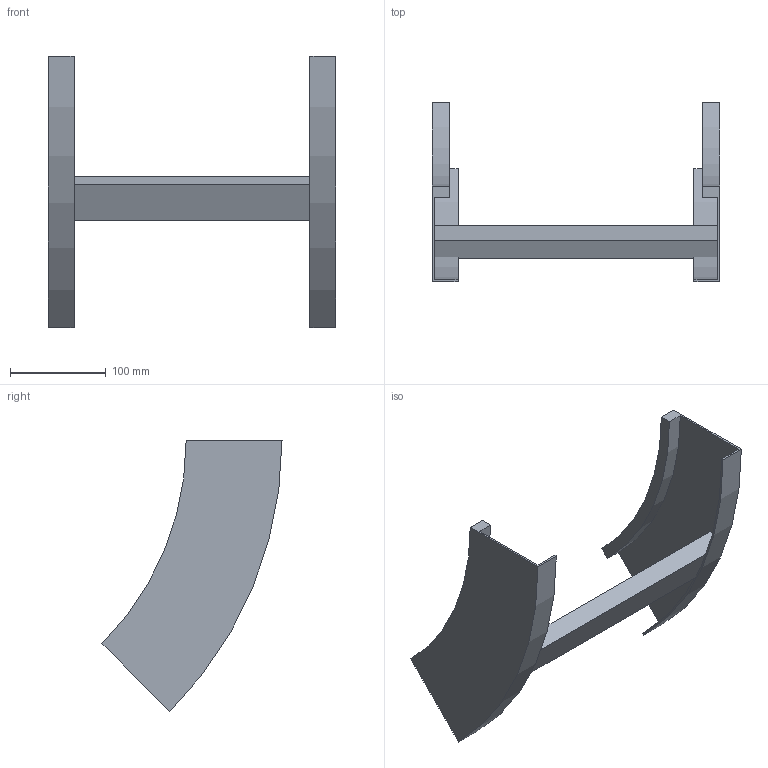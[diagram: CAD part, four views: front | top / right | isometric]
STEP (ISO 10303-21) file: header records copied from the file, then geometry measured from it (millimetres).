
FILE_DESCRIPTION (( 'STEP AP214' ), '1' );
FILE_NAME ('B2X31B3D300XX.step', '2025-03-20T10:05:01', ( '' ), ( '' ), 'SwSTEP 2.0', 'SolidWorks 2023', '' );
FILE_SCHEMA (( 'AUTOMOTIVE_DESIGN' ));
Length unit declared in the file: millimetre
Products named in the file (3): TRAVERSINO_300; B2X31B3D300XX; B2_LONGH.SALITA_45°_H100_R300
Assembly tree (3 placements, depth 2):
  B2X31B3D300XX
    B2_LONGH.SALITA_45°_H100_R300  x2
    TRAVERSINO_300
Bounding box: 300 x 187.87 x 282.84 mm (x, y, z)
Volume: 473340.6 mm3; surface area: 198077.5 mm2
Topology: 3 solids, 3 shells, 26 faces, 60 edges, 40 vertices
Faces by surface type: plane 18, cylinder 8
Entity records: 544 total; most frequent: DIRECTION 88, CARTESIAN_POINT 82, ORIENTED_EDGE 72, EDGE_CURVE 36, AXIS2_PLACEMENT_3D 30, VECTOR 28, LINE 28, VERTEX_POINT 24
